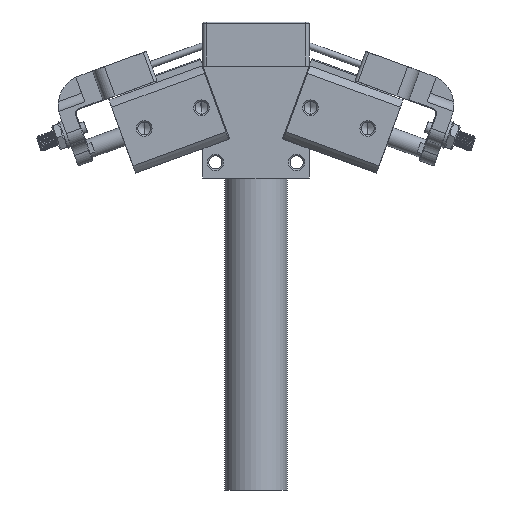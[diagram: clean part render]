
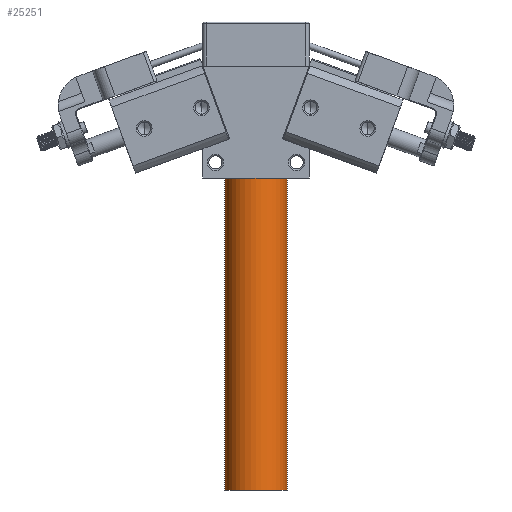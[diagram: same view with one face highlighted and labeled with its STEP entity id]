
A CAD part, front view. The second image highlights one B-rep face of the part: STEP entity #25251.
In plain terms, the highlighted cylindrical face has radius 10 mm (diameter 20 mm), a partial arc.
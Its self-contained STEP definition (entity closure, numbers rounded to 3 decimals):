
#1340 = EDGE_LOOP ( 'NONE', ( #67338, #50010, #57839, #60908 ) ) ;
#4430 = DIRECTION ( 'NONE',  ( 0., 0., 1. ) ) ;
#5312 = CIRCLE ( 'NONE', #39536, 10. ) ;
#5656 = EDGE_CURVE ( 'NONE', #53270, #56860, #59913, .T. ) ;
#5760 = CARTESIAN_POINT ( 'NONE',  ( 10., 0., -50. ) ) ;
#19462 = AXIS2_PLACEMENT_3D ( 'NONE', #59583, #59826, #65056 ) ;
#22130 = VECTOR ( 'NONE', #4430, 1000. ) ;
#23279 = CARTESIAN_POINT ( 'NONE',  ( -10., 0., -50. ) ) ;
#23676 = CARTESIAN_POINT ( 'NONE',  ( -10., 0., -150. ) ) ;
#24489 = EDGE_CURVE ( 'NONE', #68976, #25480, #5312, .T. ) ;
#24572 = CARTESIAN_POINT ( 'NONE',  ( 0., 0., -150. ) ) ;
#25251 = ADVANCED_FACE ( 'NONE', ( #39303 ), #37587, .T. ) ;
#25480 = VERTEX_POINT ( 'NONE', #23279 ) ;
#27589 = DIRECTION ( 'NONE',  ( 0., 0., -1. ) ) ;
#30106 = DIRECTION ( 'NONE',  ( 1., 0., 0. ) ) ;
#30472 = AXIS2_PLACEMENT_3D ( 'NONE', #24572, #62774, #30106 ) ;
#31304 = EDGE_CURVE ( 'NONE', #56860, #68976, #55993, .T. ) ;
#37070 = CARTESIAN_POINT ( 'NONE',  ( -10., 0., -150. ) ) ;
#37587 = CYLINDRICAL_SURFACE ( 'NONE', #19462, 10. ) ;
#39303 = FACE_OUTER_BOUND ( 'NONE', #1340, .T. ) ;
#39536 = AXIS2_PLACEMENT_3D ( 'NONE', #60277, #27589, #65770 ) ;
#48373 = CARTESIAN_POINT ( 'NONE',  ( 10., 0., -150. ) ) ;
#50010 = ORIENTED_EDGE ( 'NONE', *, *, #5656, .T. ) ;
#52571 = VECTOR ( 'NONE', #53881, 1000. ) ;
#53270 = VERTEX_POINT ( 'NONE', #23676 ) ;
#53881 = DIRECTION ( 'NONE',  ( 0., 0., 1. ) ) ;
#54794 = EDGE_CURVE ( 'NONE', #53270, #25480, #65678, .T. ) ;
#55993 = LINE ( 'NONE', #48373, #52571 ) ;
#56860 = VERTEX_POINT ( 'NONE', #68868 ) ;
#57839 = ORIENTED_EDGE ( 'NONE', *, *, #31304, .T. ) ;
#59583 = CARTESIAN_POINT ( 'NONE',  ( 0., 0., -150. ) ) ;
#59826 = DIRECTION ( 'NONE',  ( 0., 0., 1. ) ) ;
#59913 = CIRCLE ( 'NONE', #30472, 10. ) ;
#60277 = CARTESIAN_POINT ( 'NONE',  ( 0., 0., -50. ) ) ;
#60908 = ORIENTED_EDGE ( 'NONE', *, *, #24489, .T. ) ;
#62774 = DIRECTION ( 'NONE',  ( 0., 0., 1. ) ) ;
#65056 = DIRECTION ( 'NONE',  ( 1., 0., 0. ) ) ;
#65678 = LINE ( 'NONE', #37070, #22130 ) ;
#65770 = DIRECTION ( 'NONE',  ( 1., 0., 0. ) ) ;
#67338 = ORIENTED_EDGE ( 'NONE', *, *, #54794, .F. ) ;
#68868 = CARTESIAN_POINT ( 'NONE',  ( 10., 0., -150. ) ) ;
#68976 = VERTEX_POINT ( 'NONE', #5760 ) ;
